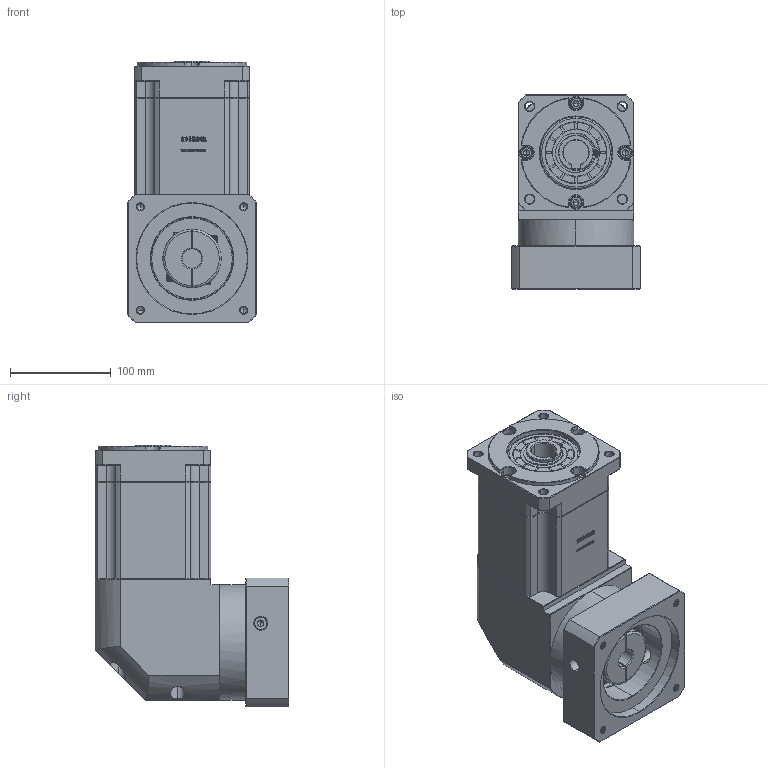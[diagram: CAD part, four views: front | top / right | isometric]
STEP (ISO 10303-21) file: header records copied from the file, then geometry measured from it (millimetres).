
FILE_DESCRIPTION (( 'STEP AP214' ), '1' );
FILE_NAME ('ZBR115A-K25-L3-19-110-145-M8.step', '2023-03-03T05:08:12', ( '' ), ( 'Microsoft' ), 'SwSTEP 2.0', 'SolidWorks 2016', '' );
FILE_SCHEMA (( 'AUTOMOTIVE_DESIGN' ));
Length unit declared in the file: millimetre
Products named in the file (1): ZBR115A-K25-L3-19-110-145-M8
Bounding box: 128 x 192.4 x 260 mm (x, y, z)
Volume: 3657708 mm3; surface area: 276602.6 mm2
Topology: 6 solids, 6 shells, 2926 faces, 7761 edges, 4981 vertices
Faces by surface type: plane 1552, bspline 598, cylinder 406, cone 362, torus 8
Entity records: 156344 total; most frequent: CARTESIAN_POINT 56178, ORIENTED_EDGE 15466, DIRECTION 11735, EDGE_CURVE 7733, LINE 5253, VECTOR 5253, VERTEX_POINT 4981, AXIS2_PLACEMENT_3D 3241
